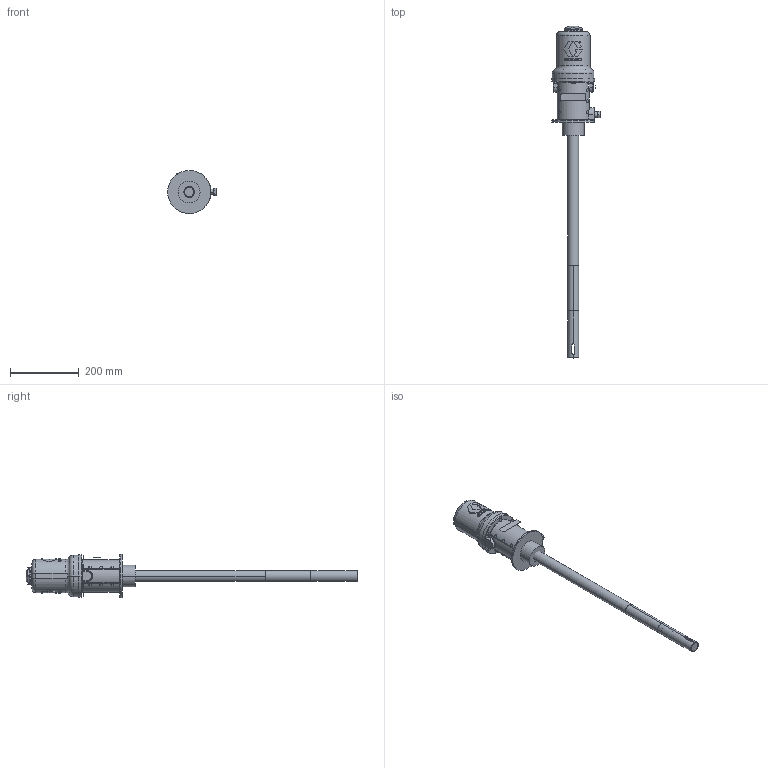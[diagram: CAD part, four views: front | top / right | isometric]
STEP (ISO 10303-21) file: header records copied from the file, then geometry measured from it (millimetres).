
FILE_DESCRIPTION((''),'2;1');
FILE_NAME('246780-EN-Z_PRT','2024-02-21T09:40:29',('qtmwp1'),(''),'CREO PARAMETRIC BY PTC INC, 2021072','CREO PARAMETRIC BY PTC INC, 2021072','');
FILE_SCHEMA(('CONFIG_CONTROL_DESIGN'));
Length unit declared in the file: inch
Products named in the file (1): 246780-EN-Z_PRT
Bounding box: 140.74 x 963.51 x 124.81 mm (x, y, z)
Surface area: 250972.4 mm2 (no closed solid volume)
Topology: 0 solids, 60 shells, 266 faces, 932 edges, 715 vertices
Faces by surface type: plane 114, cylinder 82, cone 49, torus 16, bspline 5
Entity records: 11760 total; most frequent: CARTESIAN_POINT 4456, DIRECTION 1424, ORIENTED_EDGE 1315, EDGE_CURVE 932, VERTEX_POINT 715, AXIS2_PLACEMENT_3D 575, B_SPLINE_CURVE_WITH_KNOTS 344, CIRCLE 314
